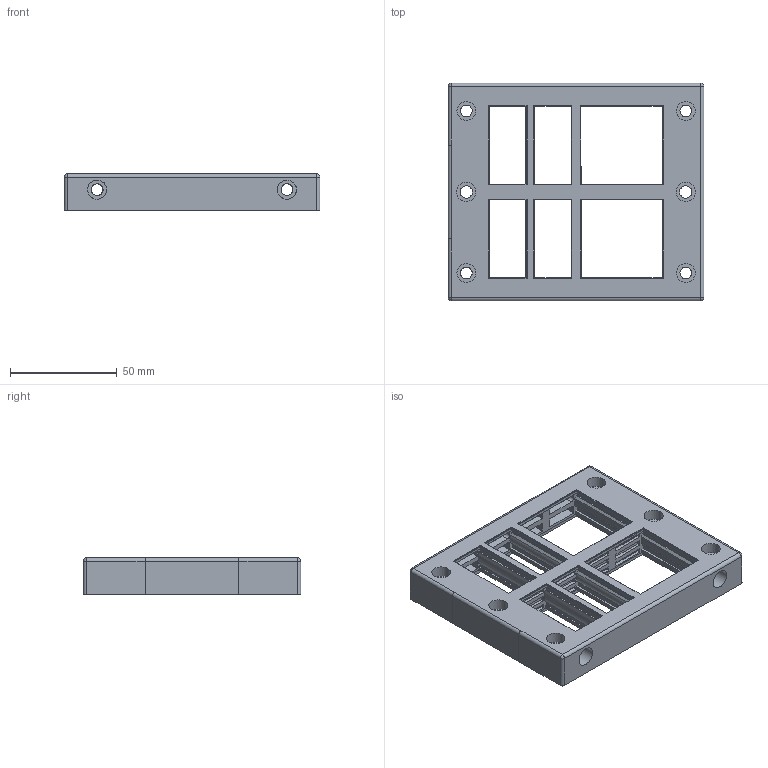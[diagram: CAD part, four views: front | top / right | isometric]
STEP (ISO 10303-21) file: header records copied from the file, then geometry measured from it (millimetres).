
FILE_DESCRIPTION (( 'STEP AP203' ), '1' );
FILE_NAME ('044161 KBL 16-10-MT.STEP', '2023-04-12T10:18:48', ( '' ), ( '' ), 'SwSTEP 2.0', 'SolidWorks 2016', '' );
FILE_SCHEMA (( 'CONFIG_CONTROL_DESIGN' ));
Length unit declared in the file: millimetre
Products named in the file (1): 044161 KBL 16-10-MT
Bounding box: 120.05 x 102 x 17 mm (x, y, z)
Volume: 77684 mm3; surface area: 54339 mm2
Topology: 1 solids, 9 shells, 1009 faces, 2681 edges, 1739 vertices
Faces by surface type: plane 696, cylinder 238, bspline 44, cone 31
Full cylindrical faces by diameter (mm): 1.8 x3, 1.895 x1, 2 x3, 5.5 x4, 5.55 x4, 5.8 x2, 8.8 x4, 9 x4
Entity records: 35090 total; most frequent: CARTESIAN_POINT 11261, ORIENTED_EDGE 5270, DIRECTION 4217, EDGE_CURVE 2635, LINE 1947, VECTOR 1947, VERTEX_POINT 1728, EDGE_LOOP 1137
